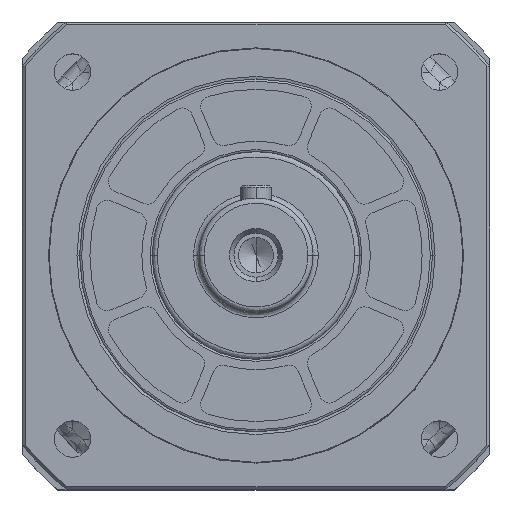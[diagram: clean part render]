
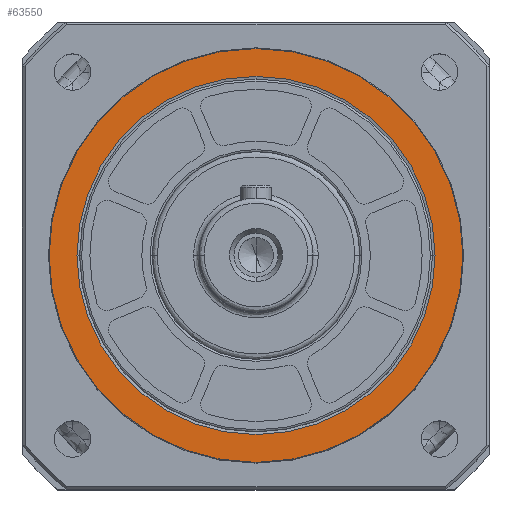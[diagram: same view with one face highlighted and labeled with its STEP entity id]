
A CAD part, top view. The second image highlights one B-rep face of the part: STEP entity #63550.
In plain terms, the highlighted planar face has unit normal (0, 0, 1).
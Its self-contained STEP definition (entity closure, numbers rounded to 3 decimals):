
#1687 = DIRECTION ( 'NONE',  ( 0., 1., 0. ) ) ;
#2966 = DIRECTION ( 'NONE',  ( 1., 0., 0. ) ) ;
#4013 = ORIENTED_EDGE ( 'NONE', *, *, #46158, .T. ) ;
#4134 = EDGE_LOOP ( 'NONE', ( #9579, #27493 ) ) ;
#6493 = CARTESIAN_POINT ( 'NONE',  ( 0., 0., 58.5 ) ) ;
#8882 = EDGE_CURVE ( 'NONE', #32139, #16834, #9273, .T. ) ;
#9273 = CIRCLE ( 'NONE', #28199, 39.866 ) ;
#9579 = ORIENTED_EDGE ( 'NONE', *, *, #44514, .T. ) ;
#10543 = DIRECTION ( 'NONE',  ( 0., 0., 1. ) ) ;
#11758 = DIRECTION ( 'NONE',  ( 1., 0., 0. ) ) ;
#12147 = VERTEX_POINT ( 'NONE', #28204 ) ;
#15131 = CIRCLE ( 'NONE', #45502, 39.866 ) ;
#16530 = VERTEX_POINT ( 'NONE', #53035 ) ;
#16834 = VERTEX_POINT ( 'NONE', #47630 ) ;
#21211 = FACE_OUTER_BOUND ( 'NONE', #4134, .T. ) ;
#23851 = AXIS2_PLACEMENT_3D ( 'NONE', #66188, #34371, #2966 ) ;
#24176 = CARTESIAN_POINT ( 'NONE',  ( 0., 0., 58.5 ) ) ;
#25309 = EDGE_LOOP ( 'NONE', ( #4013, #57361 ) ) ;
#27027 = AXIS2_PLACEMENT_3D ( 'NONE', #24176, #61170, #29420 ) ;
#27493 = ORIENTED_EDGE ( 'NONE', *, *, #8882, .T. ) ;
#27934 = PLANE ( 'NONE',  #23851 ) ;
#28199 = AXIS2_PLACEMENT_3D ( 'NONE', #64856, #33052, #1687 ) ;
#28204 = CARTESIAN_POINT ( 'NONE',  ( -34.5, 0., 58.5 ) ) ;
#28943 = CIRCLE ( 'NONE', #27027, 34.5 ) ;
#29420 = DIRECTION ( 'NONE',  ( 1., 0., 0. ) ) ;
#32139 = VERTEX_POINT ( 'NONE', #63093 ) ;
#33052 = DIRECTION ( 'NONE',  ( 0., 0., 1. ) ) ;
#34371 = DIRECTION ( 'NONE',  ( 0., 0., 1. ) ) ;
#34462 = AXIS2_PLACEMENT_3D ( 'NONE', #6493, #43236, #11758 ) ;
#35187 = FACE_BOUND ( 'NONE', #25309, .T. ) ;
#39724 = CIRCLE ( 'NONE', #34462, 34.5 ) ;
#41975 = CARTESIAN_POINT ( 'NONE',  ( 0., 0., 58.5 ) ) ;
#43236 = DIRECTION ( 'NONE',  ( 0., 0., -1. ) ) ;
#44514 = EDGE_CURVE ( 'NONE', #16834, #32139, #15131, .T. ) ;
#45330 = EDGE_CURVE ( 'NONE', #12147, #16530, #39724, .T. ) ;
#45502 = AXIS2_PLACEMENT_3D ( 'NONE', #41975, #10543, #47330 ) ;
#46158 = EDGE_CURVE ( 'NONE', #16530, #12147, #28943, .T. ) ;
#47330 = DIRECTION ( 'NONE',  ( 0., 1., 0. ) ) ;
#47630 = CARTESIAN_POINT ( 'NONE',  ( 0., 39.866, 58.5 ) ) ;
#53035 = CARTESIAN_POINT ( 'NONE',  ( 34.5, 0., 58.5 ) ) ;
#57361 = ORIENTED_EDGE ( 'NONE', *, *, #45330, .T. ) ;
#61170 = DIRECTION ( 'NONE',  ( 0., 0., -1. ) ) ;
#63093 = CARTESIAN_POINT ( 'NONE',  ( 0., -39.866, 58.5 ) ) ;
#63550 = ADVANCED_FACE ( 'NONE', ( #35187, #21211 ), #27934, .T. ) ;
#64856 = CARTESIAN_POINT ( 'NONE',  ( 0., 0., 58.5 ) ) ;
#66188 = CARTESIAN_POINT ( 'NONE',  ( -40.344, -40.344, 58.5 ) ) ;
